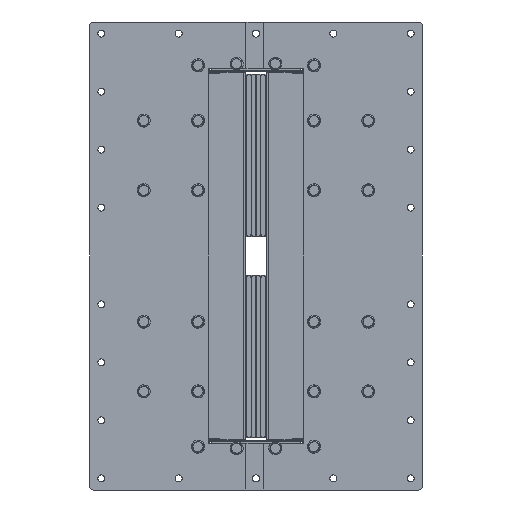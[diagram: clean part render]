
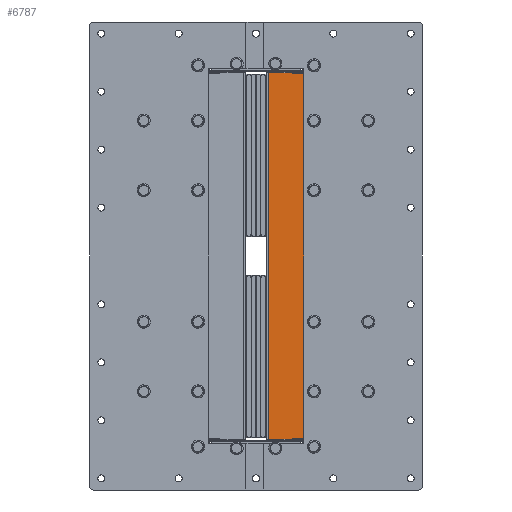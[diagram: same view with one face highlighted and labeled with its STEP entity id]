
A CAD part, left-side view. The second image highlights one B-rep face of the part: STEP entity #6787.
In plain terms, the highlighted planar face has unit normal (-1, 0, 0).
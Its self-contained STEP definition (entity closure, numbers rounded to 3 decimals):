
#5853=AXIS2_PLACEMENT_3D('Plane Axis2P3D',#5850,#5851,#5852) ;
#5987=AXIS2_PLACEMENT_3D('Circle Axis2P3D',#5985,#5986,$) ;
#6049=AXIS2_PLACEMENT_3D('Circle Axis2P3D',#6047,#6048,$) ;
#6325=AXIS2_PLACEMENT_3D('Circle Axis2P3D',#6323,#6324,$) ;
#6373=AXIS2_PLACEMENT_3D('Circle Axis2P3D',#6371,#6372,$) ;
#6681=AXIS2_PLACEMENT_3D('Circle Axis2P3D',#6679,#6680,$) ;
#6690=AXIS2_PLACEMENT_3D('Circle Axis2P3D',#6688,#6689,$) ;
#6699=AXIS2_PLACEMENT_3D('Circle Axis2P3D',#6697,#6698,$) ;
#6708=AXIS2_PLACEMENT_3D('Circle Axis2P3D',#6706,#6707,$) ;
#6717=AXIS2_PLACEMENT_3D('Circle Axis2P3D',#6715,#6716,$) ;
#6726=AXIS2_PLACEMENT_3D('Circle Axis2P3D',#6724,#6725,$) ;
#6735=AXIS2_PLACEMENT_3D('Circle Axis2P3D',#6733,#6734,$) ;
#6744=AXIS2_PLACEMENT_3D('Circle Axis2P3D',#6742,#6743,$) ;
#6753=AXIS2_PLACEMENT_3D('Circle Axis2P3D',#6751,#6752,$) ;
#6762=AXIS2_PLACEMENT_3D('Circle Axis2P3D',#6760,#6761,$) ;
#6771=AXIS2_PLACEMENT_3D('Circle Axis2P3D',#6769,#6770,$) ;
#6780=AXIS2_PLACEMENT_3D('Circle Axis2P3D',#6778,#6779,$) ;
#5850=CARTESIAN_POINT('Axis2P3D Location',(0.,0.,0.)) ;
#5891=CARTESIAN_POINT('Vertex',(0.,-60.,238.5)) ;
#5896=CARTESIAN_POINT('Line Origine',(0.,-60.,249.25)) ;
#5900=CARTESIAN_POINT('Vertex',(0.,-60.,260.)) ;
#5954=CARTESIAN_POINT('Line Origine',(0.,-69.,260.)) ;
#5958=CARTESIAN_POINT('Vertex',(0.,-78.,260.)) ;
#5985=CARTESIAN_POINT('Axis2P3D Location',(0.,-78.,255.)) ;
#5989=CARTESIAN_POINT('Vertex',(0.,-83.,255.)) ;
#6016=CARTESIAN_POINT('Line Origine',(0.,-83.,0.)) ;
#6020=CARTESIAN_POINT('Vertex',(0.,-83.,-255.)) ;
#6047=CARTESIAN_POINT('Axis2P3D Location',(0.,-78.,-255.)) ;
#6051=CARTESIAN_POINT('Vertex',(0.,-78.,-260.)) ;
#6078=CARTESIAN_POINT('Line Origine',(0.,-69.,-260.)) ;
#6082=CARTESIAN_POINT('Vertex',(0.,-60.,-260.)) ;
#6104=CARTESIAN_POINT('Line Origine',(0.,-60.,-249.25)) ;
#6108=CARTESIAN_POINT('Vertex',(0.,-60.,-238.5)) ;
#6148=CARTESIAN_POINT('Vertex',(0.,-57.5,237.)) ;
#6151=CARTESIAN_POINT('Line Origine',(0.,-57.5,237.75)) ;
#6155=CARTESIAN_POINT('Vertex',(0.,-57.5,238.5)) ;
#6186=CARTESIAN_POINT('Vertex',(0.,-16.22,237.)) ;
#6189=CARTESIAN_POINT('Line Origine',(0.,-36.86,237.)) ;
#6320=CARTESIAN_POINT('Vertex',(0.,-15.72,236.5)) ;
#6323=CARTESIAN_POINT('Axis2P3D Location',(0.,-16.22,236.5)) ;
#6344=CARTESIAN_POINT('Vertex',(0.,-15.72,-236.5)) ;
#6347=CARTESIAN_POINT('Line Origine',(0.,-15.72,0.)) ;
#6368=CARTESIAN_POINT('Vertex',(0.,-16.22,-237.)) ;
#6371=CARTESIAN_POINT('Axis2P3D Location',(0.,-16.22,-236.5)) ;
#6392=CARTESIAN_POINT('Vertex',(0.,-57.5,-237.)) ;
#6395=CARTESIAN_POINT('Line Origine',(0.,-36.86,-237.)) ;
#6411=CARTESIAN_POINT('Vertex',(0.,-57.5,-238.5)) ;
#6414=CARTESIAN_POINT('Line Origine',(0.,-57.5,-237.75)) ;
#6453=CARTESIAN_POINT('Line Origine',(0.,-58.75,-238.5)) ;
#6514=CARTESIAN_POINT('Line Origine',(0.,-58.75,238.5)) ;
#6679=CARTESIAN_POINT('Axis2P3D Location',(0.,-75.,175.)) ;
#6683=CARTESIAN_POINT('Vertex',(0.,-79.5,175.)) ;
#6685=CARTESIAN_POINT('Vertex',(0.,-70.5,175.)) ;
#6688=CARTESIAN_POINT('Axis2P3D Location',(0.,-75.,175.)) ;
#6697=CARTESIAN_POINT('Axis2P3D Location',(0.,-75.,85.)) ;
#6701=CARTESIAN_POINT('Vertex',(0.,-79.5,85.)) ;
#6703=CARTESIAN_POINT('Vertex',(0.,-70.5,85.)) ;
#6706=CARTESIAN_POINT('Axis2P3D Location',(0.,-75.,85.)) ;
#6715=CARTESIAN_POINT('Axis2P3D Location',(0.,-75.,-85.)) ;
#6719=CARTESIAN_POINT('Vertex',(0.,-79.5,-85.)) ;
#6721=CARTESIAN_POINT('Vertex',(0.,-70.5,-85.)) ;
#6724=CARTESIAN_POINT('Axis2P3D Location',(0.,-75.,-85.)) ;
#6733=CARTESIAN_POINT('Axis2P3D Location',(0.,-75.,-175.)) ;
#6737=CARTESIAN_POINT('Vertex',(0.,-79.5,-175.)) ;
#6739=CARTESIAN_POINT('Vertex',(0.,-70.5,-175.)) ;
#6742=CARTESIAN_POINT('Axis2P3D Location',(0.,-75.,-175.)) ;
#6751=CARTESIAN_POINT('Axis2P3D Location',(0.,-75.,246.5)) ;
#6755=CARTESIAN_POINT('Vertex',(0.,-79.5,246.5)) ;
#6757=CARTESIAN_POINT('Vertex',(0.,-70.5,246.5)) ;
#6760=CARTESIAN_POINT('Axis2P3D Location',(0.,-75.,246.5)) ;
#6769=CARTESIAN_POINT('Axis2P3D Location',(0.,-75.,-246.5)) ;
#6773=CARTESIAN_POINT('Vertex',(0.,-79.5,-246.5)) ;
#6775=CARTESIAN_POINT('Vertex',(0.,-70.5,-246.5)) ;
#6778=CARTESIAN_POINT('Axis2P3D Location',(0.,-75.,-246.5)) ;
#5851=DIRECTION('Axis2P3D Direction',(1.,0.,0.)) ;
#5852=DIRECTION('Axis2P3D XDirection',(0.,1.,0.)) ;
#5897=DIRECTION('Vector Direction',(0.,0.,-1.)) ;
#5955=DIRECTION('Vector Direction',(0.,-1.,0.)) ;
#5986=DIRECTION('Axis2P3D Direction',(1.,0.,0.)) ;
#6017=DIRECTION('Vector Direction',(0.,0.,1.)) ;
#6048=DIRECTION('Axis2P3D Direction',(1.,0.,0.)) ;
#6079=DIRECTION('Vector Direction',(0.,1.,0.)) ;
#6105=DIRECTION('Vector Direction',(0.,0.,-1.)) ;
#6152=DIRECTION('Vector Direction',(0.,0.,-1.)) ;
#6190=DIRECTION('Vector Direction',(0.,1.,0.)) ;
#6324=DIRECTION('Axis2P3D Direction',(1.,0.,0.)) ;
#6348=DIRECTION('Vector Direction',(0.,0.,1.)) ;
#6372=DIRECTION('Axis2P3D Direction',(1.,0.,0.)) ;
#6396=DIRECTION('Vector Direction',(0.,-1.,0.)) ;
#6415=DIRECTION('Vector Direction',(0.,0.,-1.)) ;
#6454=DIRECTION('Vector Direction',(0.,1.,0.)) ;
#6515=DIRECTION('Vector Direction',(0.,-1.,0.)) ;
#6680=DIRECTION('Axis2P3D Direction',(1.,0.,0.)) ;
#6689=DIRECTION('Axis2P3D Direction',(1.,0.,0.)) ;
#6698=DIRECTION('Axis2P3D Direction',(1.,0.,0.)) ;
#6707=DIRECTION('Axis2P3D Direction',(1.,0.,0.)) ;
#6716=DIRECTION('Axis2P3D Direction',(1.,0.,0.)) ;
#6725=DIRECTION('Axis2P3D Direction',(1.,0.,0.)) ;
#6734=DIRECTION('Axis2P3D Direction',(1.,0.,0.)) ;
#6743=DIRECTION('Axis2P3D Direction',(1.,0.,0.)) ;
#6752=DIRECTION('Axis2P3D Direction',(1.,0.,0.)) ;
#6761=DIRECTION('Axis2P3D Direction',(1.,0.,0.)) ;
#6770=DIRECTION('Axis2P3D Direction',(1.,0.,0.)) ;
#6779=DIRECTION('Axis2P3D Direction',(1.,0.,0.)) ;
#5898=VECTOR('Line Direction',#5897,1.) ;
#5956=VECTOR('Line Direction',#5955,1.) ;
#6018=VECTOR('Line Direction',#6017,1.) ;
#6080=VECTOR('Line Direction',#6079,1.) ;
#6106=VECTOR('Line Direction',#6105,1.) ;
#6153=VECTOR('Line Direction',#6152,1.) ;
#6191=VECTOR('Line Direction',#6190,1.) ;
#6349=VECTOR('Line Direction',#6348,1.) ;
#6397=VECTOR('Line Direction',#6396,1.) ;
#6416=VECTOR('Line Direction',#6415,1.) ;
#6455=VECTOR('Line Direction',#6454,1.) ;
#6516=VECTOR('Line Direction',#6515,1.) ;
#6662=ORIENTED_EDGE('',*,*,#6157,.T.) ;
#6663=ORIENTED_EDGE('',*,*,#6193,.T.) ;
#6664=ORIENTED_EDGE('',*,*,#6327,.T.) ;
#6665=ORIENTED_EDGE('',*,*,#6351,.T.) ;
#6666=ORIENTED_EDGE('',*,*,#6375,.T.) ;
#6667=ORIENTED_EDGE('',*,*,#6399,.T.) ;
#6668=ORIENTED_EDGE('',*,*,#6418,.T.) ;
#6669=ORIENTED_EDGE('',*,*,#6457,.F.) ;
#6670=ORIENTED_EDGE('',*,*,#6110,.F.) ;
#6671=ORIENTED_EDGE('',*,*,#6084,.F.) ;
#6672=ORIENTED_EDGE('',*,*,#6053,.F.) ;
#6673=ORIENTED_EDGE('',*,*,#6022,.F.) ;
#6674=ORIENTED_EDGE('',*,*,#5991,.F.) ;
#6675=ORIENTED_EDGE('',*,*,#5960,.F.) ;
#6676=ORIENTED_EDGE('',*,*,#5902,.F.) ;
#6677=ORIENTED_EDGE('',*,*,#6518,.F.) ;
#6694=ORIENTED_EDGE('',*,*,#6687,.T.) ;
#6695=ORIENTED_EDGE('',*,*,#6692,.T.) ;
#6712=ORIENTED_EDGE('',*,*,#6705,.T.) ;
#6713=ORIENTED_EDGE('',*,*,#6710,.T.) ;
#6730=ORIENTED_EDGE('',*,*,#6723,.T.) ;
#6731=ORIENTED_EDGE('',*,*,#6728,.T.) ;
#6748=ORIENTED_EDGE('',*,*,#6741,.T.) ;
#6749=ORIENTED_EDGE('',*,*,#6746,.T.) ;
#6766=ORIENTED_EDGE('',*,*,#6759,.T.) ;
#6767=ORIENTED_EDGE('',*,*,#6764,.T.) ;
#6784=ORIENTED_EDGE('',*,*,#6777,.T.) ;
#6785=ORIENTED_EDGE('',*,*,#6782,.T.) ;
#6696=FACE_BOUND('',#6693,.T.) ;
#6714=FACE_BOUND('',#6711,.T.) ;
#6732=FACE_BOUND('',#6729,.T.) ;
#6750=FACE_BOUND('',#6747,.T.) ;
#6768=FACE_BOUND('',#6765,.T.) ;
#6786=FACE_BOUND('',#6783,.T.) ;
#6787=ADVANCED_FACE('Laterale(L3)',(#6678,#6696,#6714,#6732,#6750,#6768,#6786),#5854,.F.) ;
#5988=CIRCLE('generated circle',#5987,5.) ;
#6050=CIRCLE('generated circle',#6049,5.) ;
#6326=CIRCLE('generated circle',#6325,0.5) ;
#6374=CIRCLE('generated circle',#6373,0.5) ;
#6682=CIRCLE('generated circle',#6681,4.5) ;
#6691=CIRCLE('generated circle',#6690,4.5) ;
#6700=CIRCLE('generated circle',#6699,4.5) ;
#6709=CIRCLE('generated circle',#6708,4.5) ;
#6718=CIRCLE('generated circle',#6717,4.5) ;
#6727=CIRCLE('generated circle',#6726,4.5) ;
#6736=CIRCLE('generated circle',#6735,4.5) ;
#6745=CIRCLE('generated circle',#6744,4.5) ;
#6754=CIRCLE('generated circle',#6753,4.5) ;
#6763=CIRCLE('generated circle',#6762,4.5) ;
#6772=CIRCLE('generated circle',#6771,4.5) ;
#6781=CIRCLE('generated circle',#6780,4.5) ;
#5902=EDGE_CURVE('',#5892,#5901,#5899,.F.) ;
#5960=EDGE_CURVE('',#5901,#5959,#5957,.T.) ;
#5991=EDGE_CURVE('',#5959,#5990,#5988,.T.) ;
#6022=EDGE_CURVE('',#5990,#6021,#6019,.F.) ;
#6053=EDGE_CURVE('',#6021,#6052,#6050,.T.) ;
#6084=EDGE_CURVE('',#6052,#6083,#6081,.T.) ;
#6110=EDGE_CURVE('',#6083,#6109,#6107,.F.) ;
#6157=EDGE_CURVE('',#6156,#6149,#6154,.T.) ;
#6193=EDGE_CURVE('',#6149,#6187,#6192,.T.) ;
#6327=EDGE_CURVE('',#6187,#6321,#6326,.F.) ;
#6351=EDGE_CURVE('',#6321,#6345,#6350,.F.) ;
#6375=EDGE_CURVE('',#6345,#6369,#6374,.F.) ;
#6399=EDGE_CURVE('',#6369,#6393,#6398,.T.) ;
#6418=EDGE_CURVE('',#6393,#6412,#6417,.T.) ;
#6457=EDGE_CURVE('',#6109,#6412,#6456,.T.) ;
#6518=EDGE_CURVE('',#6156,#5892,#6517,.T.) ;
#6687=EDGE_CURVE('',#6684,#6686,#6682,.T.) ;
#6692=EDGE_CURVE('',#6686,#6684,#6691,.T.) ;
#6705=EDGE_CURVE('',#6702,#6704,#6700,.T.) ;
#6710=EDGE_CURVE('',#6704,#6702,#6709,.T.) ;
#6723=EDGE_CURVE('',#6720,#6722,#6718,.T.) ;
#6728=EDGE_CURVE('',#6722,#6720,#6727,.T.) ;
#6741=EDGE_CURVE('',#6738,#6740,#6736,.T.) ;
#6746=EDGE_CURVE('',#6740,#6738,#6745,.T.) ;
#6759=EDGE_CURVE('',#6756,#6758,#6754,.T.) ;
#6764=EDGE_CURVE('',#6758,#6756,#6763,.T.) ;
#6777=EDGE_CURVE('',#6774,#6776,#6772,.T.) ;
#6782=EDGE_CURVE('',#6776,#6774,#6781,.T.) ;
#6661=EDGE_LOOP('',(#6662,#6663,#6664,#6665,#6666,#6667,#6668,#6669,#6670,#6671,#6672,#6673,#6674,#6675,#6676,#6677)) ;
#6693=EDGE_LOOP('',(#6694,#6695)) ;
#6711=EDGE_LOOP('',(#6712,#6713)) ;
#6729=EDGE_LOOP('',(#6730,#6731)) ;
#6747=EDGE_LOOP('',(#6748,#6749)) ;
#6765=EDGE_LOOP('',(#6766,#6767)) ;
#6783=EDGE_LOOP('',(#6784,#6785)) ;
#6678=FACE_OUTER_BOUND('',#6661,.T.) ;
#5899=LINE('Line',#5896,#5898) ;
#5957=LINE('Line',#5954,#5956) ;
#6019=LINE('Line',#6016,#6018) ;
#6081=LINE('Line',#6078,#6080) ;
#6107=LINE('Line',#6104,#6106) ;
#6154=LINE('Line',#6151,#6153) ;
#6192=LINE('Line',#6189,#6191) ;
#6350=LINE('Line',#6347,#6349) ;
#6398=LINE('Line',#6395,#6397) ;
#6417=LINE('Line',#6414,#6416) ;
#6456=LINE('Line',#6453,#6455) ;
#6517=LINE('Line',#6514,#6516) ;
#5854=PLANE('',#5853) ;
#5892=VERTEX_POINT('',#5891) ;
#5901=VERTEX_POINT('',#5900) ;
#5959=VERTEX_POINT('',#5958) ;
#5990=VERTEX_POINT('',#5989) ;
#6021=VERTEX_POINT('',#6020) ;
#6052=VERTEX_POINT('',#6051) ;
#6083=VERTEX_POINT('',#6082) ;
#6109=VERTEX_POINT('',#6108) ;
#6149=VERTEX_POINT('',#6148) ;
#6156=VERTEX_POINT('',#6155) ;
#6187=VERTEX_POINT('',#6186) ;
#6321=VERTEX_POINT('',#6320) ;
#6345=VERTEX_POINT('',#6344) ;
#6369=VERTEX_POINT('',#6368) ;
#6393=VERTEX_POINT('',#6392) ;
#6412=VERTEX_POINT('',#6411) ;
#6684=VERTEX_POINT('',#6683) ;
#6686=VERTEX_POINT('',#6685) ;
#6702=VERTEX_POINT('',#6701) ;
#6704=VERTEX_POINT('',#6703) ;
#6720=VERTEX_POINT('',#6719) ;
#6722=VERTEX_POINT('',#6721) ;
#6738=VERTEX_POINT('',#6737) ;
#6740=VERTEX_POINT('',#6739) ;
#6756=VERTEX_POINT('',#6755) ;
#6758=VERTEX_POINT('',#6757) ;
#6774=VERTEX_POINT('',#6773) ;
#6776=VERTEX_POINT('',#6775) ;
